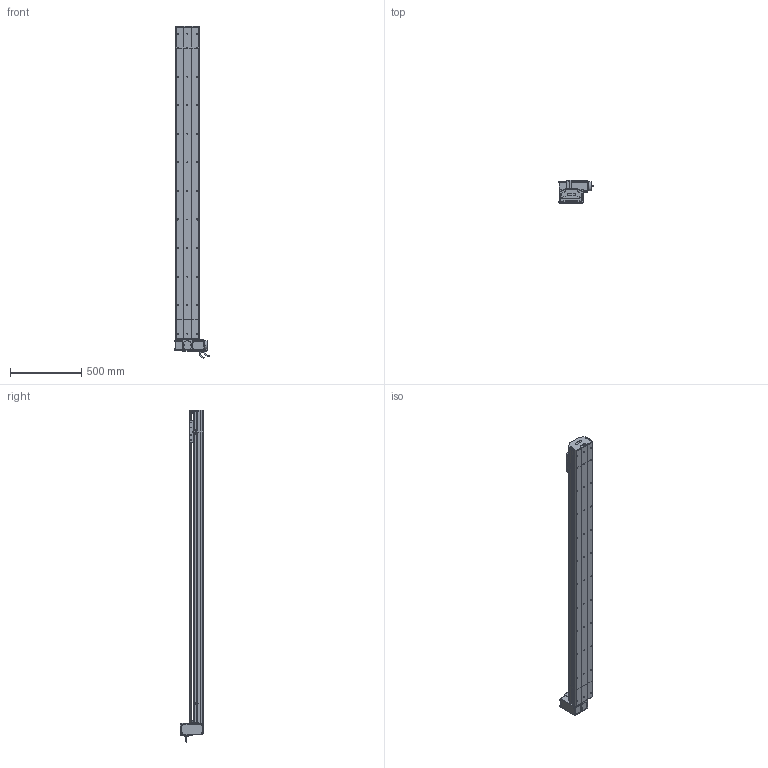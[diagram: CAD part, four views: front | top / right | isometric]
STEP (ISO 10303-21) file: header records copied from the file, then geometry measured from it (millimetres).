
FILE_DESCRIPTION (( 'STEP AP214' ), '1' );
FILE_NAME ('D17 TBH RT S1900.STEP', '2010-06-30T08:22:43', ( 'Christophe Gaillard' ), ( 'SGA' ), 'SwSTEP 2.0', 'SolidWorks 2010', '' );
FILE_SCHEMA (( 'AUTOMOTIVE_DESIGN' ));
Length unit declared in the file: millimetre
Products named in the file (40): Conecteur2_Default; codeur 90BLDC125-640; corps 90BLDC125A-640; course 1900 D17B_Default; Couroie+ rail D17 Course 1900 ; couvercle D17B course L1900_Default; couroie head D17_Default; poulie head_Default; corp D17B 1900_Default; avant 90BLDC125A-640; Moteur motionking 90BLDC125A-640; Head RT D17B_Default; vis M5 L5_Default; cache D17_Default; Arbre+rail head D17B; corpl head D17 _Default; plaque de  bout head D17B RT_Default; couvercle D17B head_Default; vis M5 L70_Default; cache arbre D17_Default; Vis M5 L16-2_Default; vis M5 L16_Default; Plaque racord D17_Default; Tail D17B+100_Default; Renvoi RT_Default; plaque de  bout tail D17B_Default; Rail D17B; tete d''axe poulie D17B; corp tail D17B+100_Default; couvercle D17B_Default; Couroie tail D17B_Default; poulie tail_Default; chariot D17S_Default; vis M5 L25_Default; vis M5 L8 90°_Default; vis M5 L12_Default; guide D17; Chariot D17; Conecteur_Default; D17 TBH RT S1900
Assembly tree (70 placements, depth 4):
  D17 TBH RT S1900
    Tail D17B+100_Default
      vis M5 L8 90°_Default  x2
      poulie tail_Default
      vis M5 L12_Default  x4
      plaque de  bout tail D17B_Default
      vis M5 L25_Default  x2
      tete d''axe poulie D17B
      couvercle D17B_Default
      Couroie tail D17B_Default
      corp tail D17B+100_Default
      Rail D17B
    course 1900 D17B_Default
      corp D17B 1900_Default
      Couroie+ rail D17 Course 1900 
      couvercle D17B course L1900_Default
    chariot D17S_Default
      Chariot D17
      guide D17  x2
      vis M5 L12_Default  x4
    Head RT D17B_Default
      Vis M5 L16-2_Default  x4
      vis M5 L12_Default  x8
      plaque de  bout head D17B RT_Default
      Moteur motionking 90BLDC125A-640
        Conecteur2_Default
        codeur 90BLDC125-640
        avant 90BLDC125A-640
        Conecteur_Default
        corps 90BLDC125A-640
      vis M5 L5_Default  x4
      vis M5 L70_Default  x4
      Renvoi RT_Default
      Plaque racord D17_Default
      couvercle D17B head_Default
      Arbre+rail head D17B
      corpl head D17 _Default
      poulie head_Default
      couroie head D17_Default
      cache D17_Default  x2
      cache arbre D17_Default
      vis M5 L25_Default  x2
      vis M5 L16_Default  x2
Bounding box: 245.2 x 166.15 x 2323.95 mm (x, y, z)
Volume: 13802392.1 mm3; surface area: 3956280 mm2
Topology: 94 solids, 94 shells, 2717 faces, 6883 edges, 4430 vertices
Faces by surface type: plane 1611, cylinder 793, bspline 136, cone 88, torus 85, sphere 4
Entity records: 85474 total; most frequent: CARTESIAN_POINT 25183, ORIENTED_EDGE 10538, DIRECTION 9990, EDGE_CURVE 5269, VECTOR 3488, LINE 3488, VERTEX_POINT 3454, AXIS2_PLACEMENT_3D 3251
